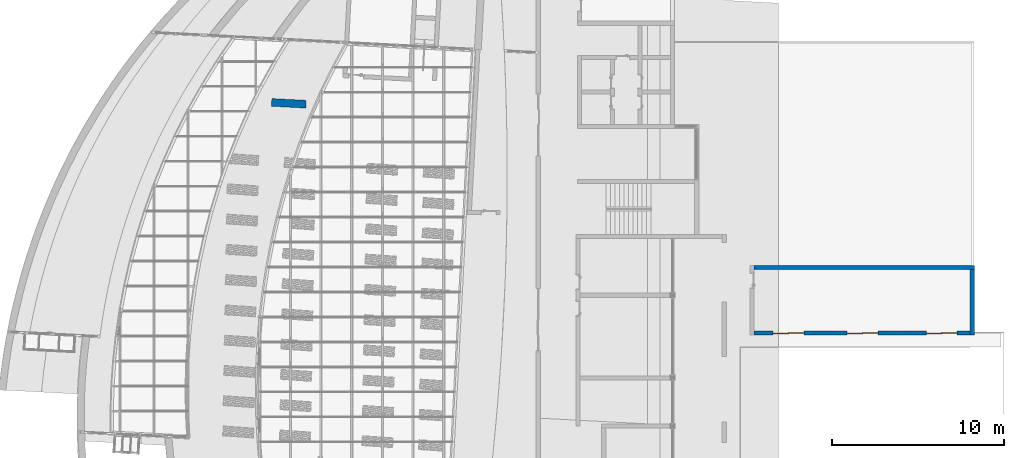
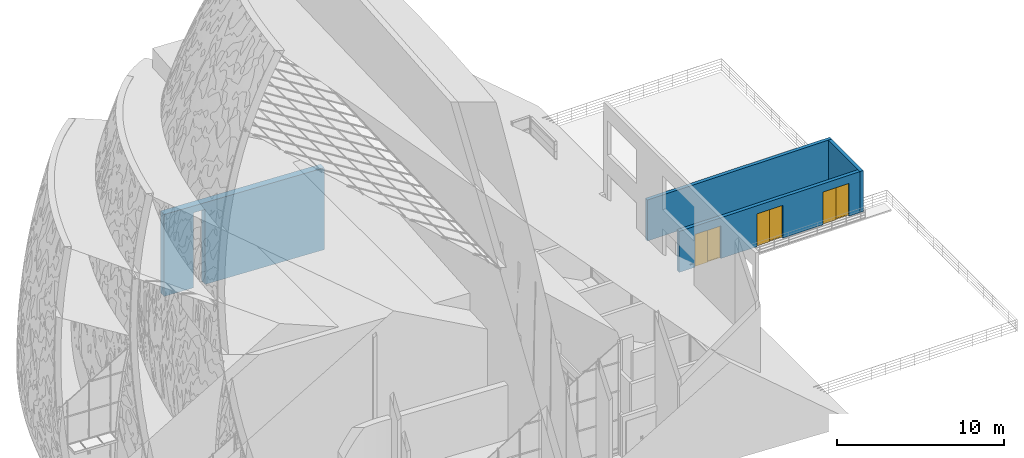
# One storey, part 58 of 82: 4 walls, 3 doors, 4 openings.
"""IFC2X3 building model written with IfcOpenShell, lengths in millimetres."""

import ifcopenshell
import ifcopenshell.guid

model = None  # the IFC model being written
_history = None  # IfcOwnerHistory: only IFC2X3 demands one
_inside = {}  # id of a spatial element -> (the spatial element, [elements in it])
_under = {}  # id of a project, library or spatial element -> (it, [spatial elements below it])
_declared = {}  # id of a project -> (the project, [libraries it declares])
_typed = {}  # id of a type object -> (the type object, [elements of that type])
_made_of = {}  # id of a material, layer set ... -> (it, [elements and type objects made of it])


def new_model(schema):
    """Start an empty IFC model of exactly this schema.

    Asked for "IFC4X3", IfcOpenShell would pick the latest addendum, in which some entities
    have other attributes; the version numbers below select the first issue.
    IFC2X3 requires an IfcOwnerHistory on every rooted entity: one is made here for all.
    """
    global model, _history
    if schema == "IFC4X3":
        model = ifcopenshell.file(schema_version=(4, 3, 0, 0))
    else:
        model = ifcopenshell.file(schema=schema)
    _inside.clear()
    _under.clear()
    _declared.clear()
    _typed.clear()
    _made_of.clear()
    _history = None
    if model.schema == "IFC2X3":
        org = make("IfcOrganization", Name="unknown")
        user = make(
            "IfcPersonAndOrganization",
            ThePerson=make("IfcPerson", FamilyName="unknown"),
            TheOrganization=org,
        )
        app = make(
            "IfcApplication",
            ApplicationDeveloper=org,
            Version="unknown",
            ApplicationFullName="unknown",
            ApplicationIdentifier="unknown",
        )
        _history = make(
            "IfcOwnerHistory",
            OwningUser=user,
            OwningApplication=app,
            ChangeAction="ADDED",
            CreationDate=0,
        )
    return model


def make(cls, **values):
    """One entity of the class cls with the attributes given. An attribute that is None is left unset."""
    return model.create_entity(
        cls, **{name: value for name, value in values.items() if value is not None}
    )


def entity(cls, *values):
    """Any entity or typed value of the class cls, its attributes in the order of the schema. None: left unset."""
    e = model.create_entity(cls)
    for i, value in enumerate(values):
        if value is not None:
            e[i] = value
    return e


def rooted(cls, **values):
    """An entity with a GlobalId (a new one), such as an element, a storey or a relation."""
    return make(cls, GlobalId=ifcopenshell.guid.new(), OwnerHistory=_history, **values)


def si_unit(unit_type, name, prefix=None):
    """IfcSIUnit, for example si_unit("LENGTHUNIT", "METRE", prefix="MILLI")."""
    return make("IfcSIUnit", UnitType=unit_type, Prefix=prefix, Name=name)


def converted_unit(unit_type, name, factor, base, dimensions=None, offset=None):
    """IfcConversionBasedUnit, such as the inch: factor (a typed value) times the base unit."""
    return make(
        "IfcConversionBasedUnit"
        if offset is None
        else "IfcConversionBasedUnitWithOffset",
        ConversionOffset=offset,
        Dimensions=None
        if dimensions is None
        else entity("IfcDimensionalExponents", *dimensions),
        UnitType=unit_type,
        Name=name,
        ConversionFactor=make(
            "IfcMeasureWithUnit", ValueComponent=factor, UnitComponent=base
        ),
    )


def derived_unit(unit_type, elements):
    """IfcDerivedUnit: a product of units, each with its exponent."""
    return make(
        "IfcDerivedUnit",
        Elements=[
            make("IfcDerivedUnitElement", Unit=unit, Exponent=power)
            for unit, power in elements
        ],
        UnitType=unit_type,
    )


def assignment(units):
    """IfcUnitAssignment: the units of a project."""
    return None if units is None else make("IfcUnitAssignment", Units=units)


def point(xyz):
    """IfcCartesianPoint."""
    return None if xyz is None else make("IfcCartesianPoint", Coordinates=xyz)


def direction(xyz):
    """IfcDirection."""
    return None if xyz is None else make("IfcDirection", DirectionRatios=xyz)


def frame(location, z_axis=None, x_axis=None):
    """IfcAxis2Placement3D, a coordinate frame: its origin and axes. An axis left out is left unset."""
    return make(
        "IfcAxis2Placement3D",
        Location=point(location),
        Axis=direction(z_axis),
        RefDirection=direction(x_axis),
    )


def frame_2d(location, x_axis=None):
    """IfcAxis2Placement2D, a coordinate frame in the plane: its origin and x axis."""
    return make(
        "IfcAxis2Placement2D", Location=point(location), RefDirection=direction(x_axis)
    )


def origin():
    """The frame at (0, 0, 0) with its axes left unset."""
    return frame((0.0, 0.0, 0.0))


def origin_2d_with_axis():
    """The frame at (0, 0) in the plane with the x axis (1, 0) written out."""
    return frame_2d((0.0, 0.0), x_axis=(1.0, 0.0))


def place(relative_to, where):
    """IfcLocalPlacement: puts the frame where relative to a parent placement (None: the world)."""
    return make(
        "IfcLocalPlacement", PlacementRelTo=relative_to, RelativePlacement=where
    )


def context(
    kind, dimensions, precision=None, world=None, true_north=None, identifier=None
):
    """IfcGeometricRepresentationContext, for example the 3D "Model" context."""
    return make(
        "IfcGeometricRepresentationContext",
        ContextIdentifier=identifier,
        ContextType=kind,
        CoordinateSpaceDimension=dimensions,
        Precision=precision,
        WorldCoordinateSystem=world,
        TrueNorth=true_north,
    )


def subcontext(parent, identifier, kind, view, scale=None):
    """IfcGeometricRepresentationSubContext, for example "Body" below "Model"."""
    return make(
        "IfcGeometricRepresentationSubContext",
        ContextIdentifier=identifier,
        ContextType=kind,
        ParentContext=parent,
        TargetScale=scale,
        TargetView=view,
    )


def project(units=None, contexts=None):
    """IfcProject with its units and contexts."""
    return rooted(
        "IfcProject",
        Name="project",
        RepresentationContexts=contexts,
        UnitsInContext=assignment(units),
    )


def spatial(cls, under=None, at=None, **own):
    """A site, building, storey or space (cls), placed at a placement, below another one or the project."""
    s = rooted(cls, ObjectPlacement=at, **own)
    if under is not None:
        _under.setdefault(under.id(), (under, []))[1].append(s)
    return s


def polyline(points):
    """IfcPolyline through the points."""
    return make("IfcPolyline", Points=[point(p) for p in points])


def profile(cls, at=None, kind="AREA", **sizes):
    """A parametric profile (cls). Its sizes go by their IFC names, for example OverallWidth=200.0."""
    return make(cls, ProfileType=kind, Position=at, **sizes)


def rectangle(**sizes):
    """IfcRectangleProfileDef."""
    return profile("IfcRectangleProfileDef", **sizes)


def outline(outer, holes=None, kind="AREA"):
    """IfcArbitraryClosedProfileDef: a profile drawn as a closed curve; with holes, ...WithVoids."""
    if holes is None:
        return make("IfcArbitraryClosedProfileDef", ProfileType=kind, OuterCurve=outer)
    return make(
        "IfcArbitraryProfileDefWithVoids",
        ProfileType=kind,
        OuterCurve=outer,
        InnerCurves=holes,
    )


def extrude(swept, where, along, depth):
    """IfcExtrudedAreaSolid: the profile swept, set in the frame where, extruded along a direction by depth."""
    return make(
        "IfcExtrudedAreaSolid",
        SweptArea=swept,
        Position=where,
        ExtrudedDirection=direction(along),
        Depth=depth,
    )


def shape(context_of_items, identifier, shape_type, items):
    """IfcShapeRepresentation: the items that make up one representation, for example the "Body"."""
    return make(
        "IfcShapeRepresentation",
        ContextOfItems=context_of_items,
        RepresentationIdentifier=identifier,
        RepresentationType=shape_type,
        Items=items,
    )


def source(mapping_origin, context_of_items, identifier, shape_type, items):
    """IfcRepresentationMap: a shape defined once, which mapped items show again and again."""
    return make(
        "IfcRepresentationMap",
        MappingOrigin=mapping_origin,
        MappedRepresentation=shape(context_of_items, identifier, shape_type, items),
    )


def transform(
    local_origin,
    x_axis=None,
    y_axis=None,
    z_axis=None,
    scale=None,
    scale2=None,
    scale3=None,
    uniform=True,
):
    """IfcCartesianTransformationOperator3D, or its non-uniform kind. x_axis, y_axis, z_axis: its Axis1, 2, 3."""
    if uniform:
        return make(
            "IfcCartesianTransformationOperator3D",
            Axis1=direction(x_axis),
            Axis2=direction(y_axis),
            LocalOrigin=point(local_origin),
            Scale=scale,
            Axis3=direction(z_axis),
        )
    return make(
        "IfcCartesianTransformationOperator3DnonUniform",
        Axis1=direction(x_axis),
        Axis2=direction(y_axis),
        LocalOrigin=point(local_origin),
        Scale=scale,
        Axis3=direction(z_axis),
        Scale2=scale2,
        Scale3=scale3,
    )


def mapped(mapping_source, mapping_target):
    """IfcMappedItem: shows the shape of a source again, moved by a transform."""
    return make(
        "IfcMappedItem", MappingSource=mapping_source, MappingTarget=mapping_target
    )


def material(Name=None, Category=None):
    """IfcMaterial."""
    return make("IfcMaterial", Name=Name, Category=Category)


def material_list(materials):
    """IfcMaterialList."""
    return make("IfcMaterialList", Materials=materials)


def layer(
    of_material, thickness, ventilated=None, Name=None, Category=None, Priority=None
):
    """IfcMaterialLayer: one layer of a wall or slab, of a material (None: an air gap)."""
    return make(
        "IfcMaterialLayer",
        Material=of_material,
        LayerThickness=thickness,
        IsVentilated=ventilated,
        Name=Name,
        Category=Category,
        Priority=Priority,
    )


def layer_set(layers, Name=None):
    """IfcMaterialLayerSet."""
    return make("IfcMaterialLayerSet", MaterialLayers=layers, LayerSetName=Name)


def layer_usage(for_layer_set, set_direction, sense, offset, extent=None):
    """IfcMaterialLayerSetUsage: how a layer set lies in its element."""
    return make(
        "IfcMaterialLayerSetUsage",
        ForLayerSet=for_layer_set,
        LayerSetDirection=set_direction,
        DirectionSense=sense,
        OffsetFromReferenceLine=offset,
        ReferenceExtent=extent,
    )


def made_of(thing, what):
    """Note that an element or type object is made of a material, layer set ...; save() writes the relation."""
    if what is not None:
        _made_of.setdefault(what.id(), (what, []))[1].append(thing)
    return thing


def type_object(cls, material=None, **own):
    """A type object (cls), such as IfcWallType, which elements share."""
    return made_of(rooted(cls, **own), material)


def type_shapes(of_type, sources):
    """Give a type object the sources (RepresentationMaps) that its elements show as mapped items."""
    of_type.RepresentationMaps = sources


def element(
    cls,
    number,
    at=None,
    inside=None,
    cuts=None,
    type_object=None,
    material=None,
    context=None,
    identifier="Body",
    shape_type=None,
    held_by="IfcProductDefinitionShape",
    body=None,
    shapes=None,
    **own,
):
    """One element of the class cls, such as IfcWall. Its Tag is "e" and its number.

    at: its placement. inside: the storey or other place that contains it. cuts: it is an
    opening in that element (IfcRelVoidsElement). A single representation is given by context,
    identifier, shape_type and body (its items); several are given by shapes. held_by: the class
    of the entity that holds the representations. save() writes the other relations.
    """
    e = rooted(cls, Tag="e%d" % number, ObjectPlacement=at, **own)
    if body is not None:
        shapes = [shape(context, identifier, shape_type, body)]
    if shapes is not None:
        e.Representation = make(held_by, Representations=shapes)
    if inside is not None:
        _inside.setdefault(inside.id(), (inside, []))[1].append(e)
    if cuts is not None:
        rooted(
            "IfcRelVoidsElement", RelatingBuildingElement=cuts, RelatedOpeningElement=e
        )
    if type_object is not None:
        _typed.setdefault(type_object.id(), (type_object, []))[1].append(e)
    return made_of(e, material)


def fill(opening, filler):
    """IfcRelFillsElement: the door or window that sits in an opening."""
    return rooted(
        "IfcRelFillsElement",
        RelatingOpeningElement=opening,
        RelatedBuildingElement=filler,
    )


def aggregate(whole, parts):
    """IfcRelAggregates: a whole, such as a stair, and the parts it consists of."""
    return rooted("IfcRelAggregates", RelatingObject=whole, RelatedObjects=parts)


def save(model, path):
    """Write the relations noted so far, then the file.

    IfcRelAggregates (storeys below a building ...), IfcRelContainedInSpatialStructure (elements
    in a storey), IfcRelDefinesByType, IfcRelAssociatesMaterial and IfcRelDeclares: one each for
    every whole, place, type object, material and project.
    """
    for whole, parts in _under.values():
        aggregate(whole, parts)
    for where, things in _inside.values():
        rooted(
            "IfcRelContainedInSpatialStructure",
            RelatedElements=things,
            RelatingStructure=where,
        )
    for kind, things in _typed.values():
        rooted("IfcRelDefinesByType", RelatedObjects=things, RelatingType=kind)
    for what, things in _made_of.values():
        rooted("IfcRelAssociatesMaterial", RelatedObjects=things, RelatingMaterial=what)
    for by, libraries in _declared.values():
        rooted("IfcRelDeclares", RelatingContext=by, RelatedDefinitions=libraries)
    model.write(path)


model = new_model("IFC2X3")

# Units and contexts
model_context = context("Model", 3, precision=0.01, world=origin(), true_north=direction((6.12303176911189e-17, 1.0)))
body_context = subcontext(model_context, "Body", "Model", "MODEL_VIEW")
ifc_project = project(units=[si_unit("LENGTHUNIT", "METRE", prefix="MILLI"), si_unit("AREAUNIT", "SQUARE_METRE"), si_unit("VOLUMEUNIT", "CUBIC_METRE"), converted_unit("PLANEANGLEUNIT", "DEGREE", entity("IfcRatioMeasure", 0.0174532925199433), si_unit("PLANEANGLEUNIT", "RADIAN"), dimensions=[0, 0, 0, 0, 0, 0, 0]), si_unit("MASSUNIT", "GRAM", prefix="KILO"), derived_unit("MASSDENSITYUNIT", [(si_unit("MASSUNIT", "GRAM", prefix="KILO"), 1), (si_unit("LENGTHUNIT", "METRE"), -3)]), si_unit("TIMEUNIT", "SECOND"), si_unit("FREQUENCYUNIT", "HERTZ"), si_unit("THERMODYNAMICTEMPERATUREUNIT", "DEGREE_CELSIUS"), derived_unit("THERMALTRANSMITTANCEUNIT", [(si_unit("MASSUNIT", "GRAM", prefix="KILO"), 1), (si_unit("THERMODYNAMICTEMPERATUREUNIT", "KELVIN"), -1), (si_unit("TIMEUNIT", "SECOND"), -3)]), derived_unit("VOLUMETRICFLOWRATEUNIT", [(si_unit("LENGTHUNIT", "METRE"), 3), (si_unit("TIMEUNIT", "SECOND"), -1)]), si_unit("ELECTRICCURRENTUNIT", "AMPERE"), si_unit("ELECTRICVOLTAGEUNIT", "VOLT"), si_unit("POWERUNIT", "WATT"), si_unit("FORCEUNIT", "NEWTON", prefix="KILO"), si_unit("ILLUMINANCEUNIT", "LUX"), si_unit("LUMINOUSFLUXUNIT", "LUMEN"), si_unit("LUMINOUSINTENSITYUNIT", "CANDELA"), derived_unit("USERDEFINED", [(si_unit("MASSUNIT", "GRAM", prefix="KILO"), -1), (si_unit("LENGTHUNIT", "METRE"), -2), (si_unit("TIMEUNIT", "SECOND"), 3), (si_unit("LUMINOUSFLUXUNIT", "LUMEN"), 1)]), derived_unit("LINEARVELOCITYUNIT", [(si_unit("LENGTHUNIT", "METRE"), 1), (si_unit("TIMEUNIT", "SECOND"), -1)]), si_unit("PRESSUREUNIT", "PASCAL"), derived_unit("USERDEFINED", [(si_unit("LENGTHUNIT", "METRE"), -2), (si_unit("MASSUNIT", "GRAM", prefix="KILO"), 1), (si_unit("TIMEUNIT", "SECOND"), -2)])], contexts=[model_context])

# Site, building, storey
site_placement = place(None, origin())
site = spatial("IfcSite", under=ifc_project, at=site_placement, Name="表面", CompositionType="ELEMENT")
building_placement = place(site_placement, origin())
building = spatial("IfcBuilding", under=site, at=building_placement, CompositionType="ELEMENT")
storey_placement = place(building_placement, origin())
storey = spatial("IfcBuildingStorey", under=building, at=storey_placement, Name="1F", CompositionType="ELEMENT", Elevation=0.0)

# Walls
ifc_material_1 = material(Name="白色涂料")
ifc_layer_1 = layer(ifc_material_1, 10.0)
ifc_material_2 = material(Name="默认墙")
ifc_layer_2 = layer(ifc_material_2, 220.0)
ifc_layer_3 = layer(ifc_material_1, 10.0)
ifc_layer_set_1 = layer_set([ifc_layer_1, ifc_layer_2, ifc_layer_3], Name="基本墙:粉刷墙240")
ifc_layer_usage_1 = layer_usage(ifc_layer_set_1, "AXIS2", "NEGATIVE", 120.0)
wall_type_1 = type_object("IfcWallType", Name="基本墙:粉刷墙240", PredefinedType="STANDARD", material=ifc_layer_set_1)
wall_1_placement = place(storey_placement, frame((-1890.24991264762, -10507.8459129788, 0.0)))
element("IfcWallStandardCase", 1, at=wall_1_placement, inside=storey, type_object=wall_type_1, material=ifc_layer_usage_1, Name="基本墙:粉刷墙240", ObjectType="基本墙:粉刷墙240", context=body_context, shape_type="SweptSolid", body=[
    extrude(rectangle(XDim=12780.0, YDim=240.000000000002, at=frame_2d((6390.0, 0.0), x_axis=(-1.0, 0.0))), origin(), (0.0, 0.0, 1.0), 3000.00000000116),
])
ifc_layer_usage_2 = layer_usage(ifc_layer_set_1, "AXIS2", "NEGATIVE", 120.0)
wall_2_placement = place(storey_placement, frame((10769.7500873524, -10627.8459129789, 0.0), z_axis=(0.0, 0.0, 1.0), x_axis=(0.0, -1.0, 0.0)))
element("IfcWallStandardCase", 2, at=wall_2_placement, inside=storey, type_object=wall_type_1, material=ifc_layer_usage_2, Name="基本墙:粉刷墙240", ObjectType="基本墙:粉刷墙240", context=body_context, shape_type="SweptSolid", body=[
    extrude(rectangle(XDim=3800.0, YDim=240.000000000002, at=frame_2d((1900.0, 0.0), x_axis=(-1.0, 0.0))), origin(), (0.0, 0.0, 1.0), 3000.00000000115),
])

# Wall, openings, doors
ifc_layer_usage_3 = layer_usage(ifc_layer_set_1, "AXIS2", "NEGATIVE", 120.0)
wall_3_placement = place(storey_placement, frame((10649.7500873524, -14307.8459129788, 0.0), z_axis=(0.0, 0.0, 1.0), x_axis=(-1.0, 0.0, 0.0)))
wall_3 = element("IfcWallStandardCase", 3, at=wall_3_placement, inside=storey, type_object=wall_type_1, material=ifc_layer_usage_3, Name="基本墙:粉刷墙240", ObjectType="基本墙:粉刷墙240", context=body_context, shape_type="SweptSolid", body=[
    extrude(rectangle(XDim=12540.0, YDim=240.000000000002, at=frame_2d((6270.0, -3.90798504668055e-13), x_axis=(-1.0, 0.0))), origin(), (0.0, 0.0, 1.0), 3000.00000000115),
])
opening_1_placement = place(wall_3_placement, frame((750.0, -120.0, 0.0)))
opening_1 = element("IfcOpeningElement", 4, at=opening_1_placement, cuts=wall_3, Name="YM1824:YM3267:1", ObjectType="Opening", context=body_context, shape_type="SweptSolid", body=[
    extrude(rectangle(XDim=2400.0, YDim=1800.0, at=frame_2d((1200.0, 900.0), x_axis=(1.0, 0.0))), frame((0.0, 0.0, 0.0), z_axis=(0.0, 1.0, 0.0), x_axis=(0.0, 0.0, 1.0)), (0.0, 0.0, 1.0), 240.0),
])
opening_2_placement = place(wall_3_placement, frame((5350.0, -120.0, 0.0)))
opening_2 = element("IfcOpeningElement", 5, at=opening_2_placement, cuts=wall_3, Name="YM1824:YM3267:1", ObjectType="Opening", context=body_context, shape_type="SweptSolid", body=[
    extrude(rectangle(XDim=2400.0, YDim=1800.0, at=frame_2d((1200.0, 900.0), x_axis=(1.0, 0.0))), frame((0.0, 0.0, 0.0), z_axis=(0.0, 1.0, 0.0), x_axis=(0.0, 0.0, 1.0)), (0.0, 0.0, 1.0), 240.0),
])
opening_3_placement = place(wall_3_placement, frame((9650.0, -120.0, 0.0)))
opening_3 = element("IfcOpeningElement", 6, at=opening_3_placement, cuts=wall_3, Name="YM1824:YM3267:1", ObjectType="Opening", context=body_context, shape_type="SweptSolid", body=[
    extrude(rectangle(XDim=2400.0, YDim=1800.0, at=frame_2d((1200.0, 900.0), x_axis=(1.0, 0.0))), frame((0.0, 0.0, 0.0), z_axis=(0.0, 1.0, 0.0), x_axis=(0.0, 0.0, 1.0)), (0.0, 0.0, 1.0), 240.0),
])
ifc_material_3 = material(Name="玻璃")
ifc_material_4 = material(Name="铝合金")
ifc_material_list_1 = material_list([ifc_material_3, ifc_material_4])
ifc_material_list_2 = material_list([ifc_material_3, ifc_material_4])
door_style = type_object("IfcDoorStyle", Name="YM3267", ConstructionType="NOTDEFINED", OperationType="NOTDEFINED", ParameterTakesPrecedence=False, Sizeable=False, material=ifc_material_list_2)
shared_shape = source(origin(), body_context, "Body", "SweptSolid", [
    extrude(rectangle(XDim=9.99999999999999, YDim=825.000000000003, at=origin_2d_with_axis()), frame((462.500000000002, 120.0, 50.0), z_axis=(0.0, 0.0, 1.0), x_axis=(0.0, 1.0, 0.0)), (0.0, 0.0, 1.0), 2300.00000000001),
    extrude(outline(polyline([(-462.5, -1200.0), (462.5, -1200.0), (462.5, 1200.0), (-462.5, 1200.0), (-462.5, -1200.0)]), holes=[polyline([(412.5, 1150.0), (412.5, -1150.0), (-412.5, -1150.0), (-412.5, 1150.0), (412.5, 1150.0)])]), frame((462.5, 105.0, 1200.0), z_axis=(0.0, 1.0, 0.0), x_axis=(-1.0, 0.0, 0.0)), (0.0, 0.0, 1.0), 30.0),
    extrude(rectangle(XDim=9.99999999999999, YDim=825.000000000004, at=frame_2d((4.44089209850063e-15, -8.5265128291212e-14), x_axis=(1.0, 0.0))), frame((1337.5, 170.0, 50.0), z_axis=(0.0, 0.0, 1.0), x_axis=(0.0, 1.0, 0.0)), (0.0, 0.0, 1.0), 2300.0),
    extrude(outline(polyline([(-462.500000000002, -1200.0), (462.500000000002, -1200.0), (462.500000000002, 1200.0), (-462.500000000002, 1200.0), (-462.500000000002, -1200.0)]), holes=[polyline([(412.500000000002, 1150.0), (412.500000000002, -1150.0), (-412.500000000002, -1150.0), (-412.500000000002, 1150.0), (412.500000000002, 1150.0)])]), frame((1337.5, 135.0, 1200.0), z_axis=(0.0, 1.0, 0.0), x_axis=(-1.0, 0.0, 0.0)), (0.0, 0.0, 1.0), 30.0),
])
type_shapes(door_style, [shared_shape])
door_1_placement = place(opening_1_placement, origin())
door_1 = element("IfcDoor", 7, at=door_1_placement, inside=storey, type_object=door_style, material=ifc_material_list_1, Name="YM1824:YM3267", ObjectType="YM3267", OverallHeight=2400.0, OverallWidth=1800.0, context=body_context, shape_type="MappedRepresentation", body=[
    mapped(shared_shape, transform((0.0, 0.0, 0.0), scale=1.0)),
])
fill(opening_1, door_1)
ifc_material_list_3 = material_list([ifc_material_3, ifc_material_4])
door_2_placement = place(opening_2_placement, origin())
door_2 = element("IfcDoor", 8, at=door_2_placement, inside=storey, type_object=door_style, material=ifc_material_list_3, Name="YM1824:YM3267", ObjectType="YM3267", OverallHeight=2400.0, OverallWidth=1800.0, context=body_context, shape_type="MappedRepresentation", body=[
    mapped(shared_shape, transform((0.0, 0.0, 0.0), scale=1.0)),
])
fill(opening_2, door_2)
ifc_material_list_4 = material_list([ifc_material_3, ifc_material_4])
door_3_placement = place(opening_3_placement, origin())
door_3 = element("IfcDoor", 9, at=door_3_placement, inside=storey, type_object=door_style, material=ifc_material_list_4, Name="YM1824:YM3267", ObjectType="YM3267", OverallHeight=2400.0, OverallWidth=1800.0, context=body_context, shape_type="MappedRepresentation", body=[
    mapped(shared_shape, transform((0.0, 0.0, 0.0), scale=1.0)),
])
fill(opening_3, door_3)

# Wall, opening
ifc_layer_4 = layer(ifc_material_1, 10.0)
ifc_layer_5 = layer(ifc_material_2, 430.0)
ifc_layer_6 = layer(ifc_material_1, 10.0)
ifc_layer_set_2 = layer_set([ifc_layer_4, ifc_layer_5, ifc_layer_6], Name="基本墙:粉刷墙450")
ifc_layer_usage_4 = layer_usage(ifc_layer_set_2, "AXIS2", "NEGATIVE", 225.0)
wall_type_2 = type_object("IfcWallType", Name="基本墙:粉刷墙450", PredefinedType="STANDARD", material=ifc_layer_set_2)
wall_4_placement = place(storey_placement, frame((-19130.7452769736, -1483.06085733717, 0.0), z_axis=(0.0, 0.0, 1.0), x_axis=(-0.998629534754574, 0.0523359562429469, 0.0)))
wall_4 = element("IfcWallStandardCase", 10, at=wall_4_placement, inside=storey, type_object=wall_type_2, material=ifc_layer_usage_4, Name="基本墙:粉刷墙450", ObjectType="基本墙:粉刷墙450", context=body_context, shape_type="SweptSolid", body=[
    extrude(rectangle(XDim=10800.0, YDim=450.0, at=frame_2d((5400.0, 0.0), x_axis=(-1.0, 0.0))), origin(), (0.0, 0.0, 1.0), 6000.00000000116),
])
opening_4_placement = place(wall_4_placement, origin())
element("IfcOpeningElement", 11, at=opening_4_placement, cuts=wall_4, Name="基本墙:粉刷墙450", ObjectType="Opening", context=body_context, shape_type="SweptSolid", body=[
    extrude(rectangle(XDim=5500.0, YDim=769.999999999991, at=frame_2d((0.0, 4.54747350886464e-13), x_axis=(0.0, 1.0))), frame((8415.0, 225.0, 2750.0), z_axis=(0.0, -1.0, 0.0), x_axis=(1.0, 0.0, 0.0)), (0.0, 0.0, 1.0), 450.0),
])

save(model, "model.ifc")
